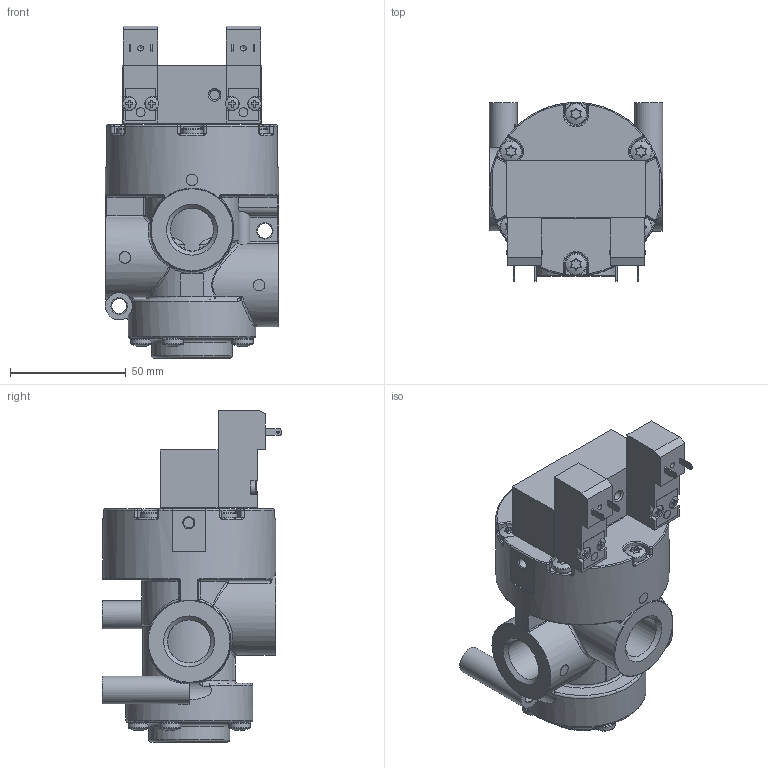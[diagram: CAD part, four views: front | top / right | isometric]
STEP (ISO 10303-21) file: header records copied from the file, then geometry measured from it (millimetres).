
FILE_DESCRIPTION(/* description */ ('EV.x VUOTO SOL.EST.S.Rap.-MOLLA 3/2 NC/NA Bistabile'),/* implementation_level */ '2;1');
FILE_NAME(/* name */ 'C:\PNX_VAULTFOLDER\Area Tecnica\Disegni\VARIE-3D\Componenti\1900 (vuoto)\T772-VS_32_0_1_BP.stp',/* time_stamp */ '2019-09-13T13:51:40+02:00',/* author */ ('maniean1'),/* organization */ ('Pneumax S.p.A.'),/* preprocessor_version */ 'ST-DEVELOPER v17',/* originating_system */ 'Autodesk Inventor 2019',/* authorisation */ '');
FILE_SCHEMA (('AUTOMOTIVE_DESIGN { 1 0 10303 214 3 1 1 }'));
Products named in the file (1): T772/VS.32.0.1.BP
Bounding box: 75 x 77.49 x 143.6 mm (x, y, z)
Volume: 344004.5 mm3; surface area: 67495.1 mm2
Topology: 3 solids, 65 shells, 1640 faces, 3969 edges, 2405 vertices
Faces by surface type: cylinder 596, plane 545, torus 195, sphere 127, bspline 122, cone 55
Full cylindrical faces by diameter (mm): 1 x4, 2 x6, 2.459 x2, 3 x4, 3.1 x4, 3.15 x4, 3.9 x2, 4.1 x4, 4.134 x1, 4.459 x1, 5 x8, 5.25 x4, 5.5 x4, 5.8 x4, 6 x2, 6.5 x2, 8.566 x1, 9.25 x10, 12 x2, 18.631 x3, 35 x1, 55 x1, 75 x1
Entity records: 56239 total; most frequent: CARTESIAN_POINT 16815, DIRECTION 8230, ORIENTED_EDGE 7744, EDGE_CURVE 3872, AXIS2_PLACEMENT_3D 3419, VERTEX_POINT 2405, CIRCLE 1840, EDGE_LOOP 1713
